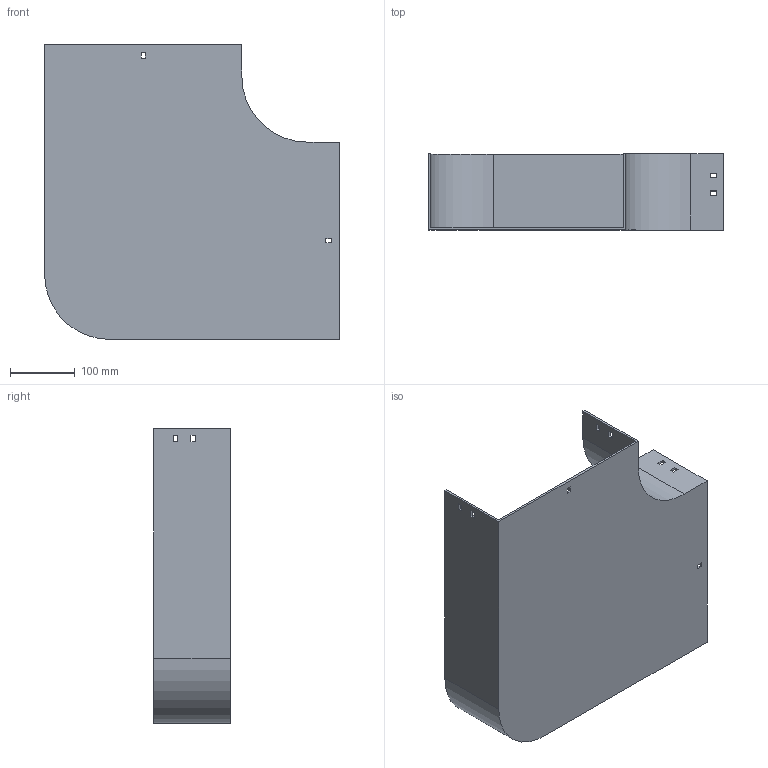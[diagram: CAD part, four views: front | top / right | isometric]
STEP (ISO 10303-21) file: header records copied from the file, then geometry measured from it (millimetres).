
FILE_DESCRIPTION (( 'STEP AP214' ), '1' );
FILE_NAME ('10B1J300.step', '2025-02-21T09:40:05', ( '' ), ( '' ), 'SwSTEP 2.0', 'SolidWorks 2023', '' );
FILE_SCHEMA (( 'AUTOMOTIVE_DESIGN' ));
Length unit declared in the file: millimetre
Products named in the file (1): 10B1J300
Bounding box: 454 x 117.5 x 454 mm (x, y, z)
Volume: 1088028 mm3; surface area: 630550.9 mm2
Topology: 1 solids, 1 shells, 58 faces, 168 edges, 112 vertices
Faces by surface type: plane 54, cylinder 4
Entity records: 1943 total; most frequent: CARTESIAN_POINT 339, ORIENTED_EDGE 336, DIRECTION 294, EDGE_CURVE 168, VECTOR 160, LINE 160, VERTEX_POINT 112, EDGE_LOOP 78
